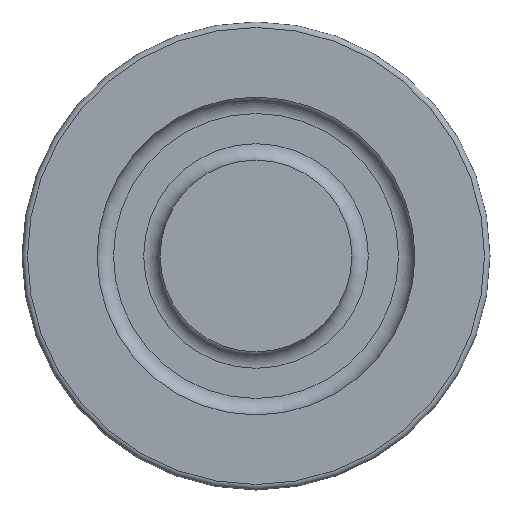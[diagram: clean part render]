
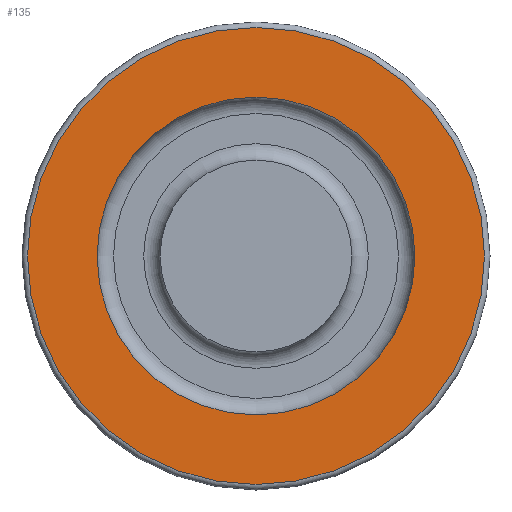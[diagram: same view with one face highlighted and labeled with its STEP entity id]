
A CAD part, left-side view. The second image highlights one B-rep face of the part: STEP entity #135.
In plain terms, the highlighted planar face has unit normal (-1, 0, 0).
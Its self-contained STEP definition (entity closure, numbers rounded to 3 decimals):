
#73=CARTESIAN_POINT('',(0.,41.7,0.0));
#74=VERTEX_POINT('',#73);
#75=CARTESIAN_POINT('',(0.,0.0,0.0));
#76=DIRECTION('',(1.0,0.0,0.0));
#77=DIRECTION('',(0.0,-1.0,0.0));
#78=AXIS2_PLACEMENT_3D('',#75,#76,#77);
#79=CIRCLE('',#78,41.7);
#80=EDGE_CURVE('',#74,#74,#79,.T.);
#116=CARTESIAN_POINT('',(0.,21.35,0.0));
#117=DIRECTION('',(-1.0,0.0,0.0));
#118=DIRECTION('',(0.0,0.0,1.0));
#119=AXIS2_PLACEMENT_3D('',#116,#117,#118);
#120=PLANE('',#119);
#121=ORIENTED_EDGE('',*,*,#80,.F.);
#122=EDGE_LOOP('',(#121));
#123=FACE_OUTER_BOUND('',#122,.T.);
#124=CARTESIAN_POINT('',(0.,0.,29.0));
#125=VERTEX_POINT('',#124);
#126=CARTESIAN_POINT('',(0.,0.0,0.0));
#127=DIRECTION('',(1.0,0.0,0.0));
#128=DIRECTION('',(0.0,0.0,-1.0));
#129=AXIS2_PLACEMENT_3D('',#126,#127,#128);
#130=CIRCLE('',#129,29.0);
#131=EDGE_CURVE('',#125,#125,#130,.T.);
#132=ORIENTED_EDGE('',*,*,#131,.T.);
#133=EDGE_LOOP('',(#132));
#134=FACE_BOUND('',#133,.T.);
#135=ADVANCED_FACE('',(#123,#134),#120,.T.);
